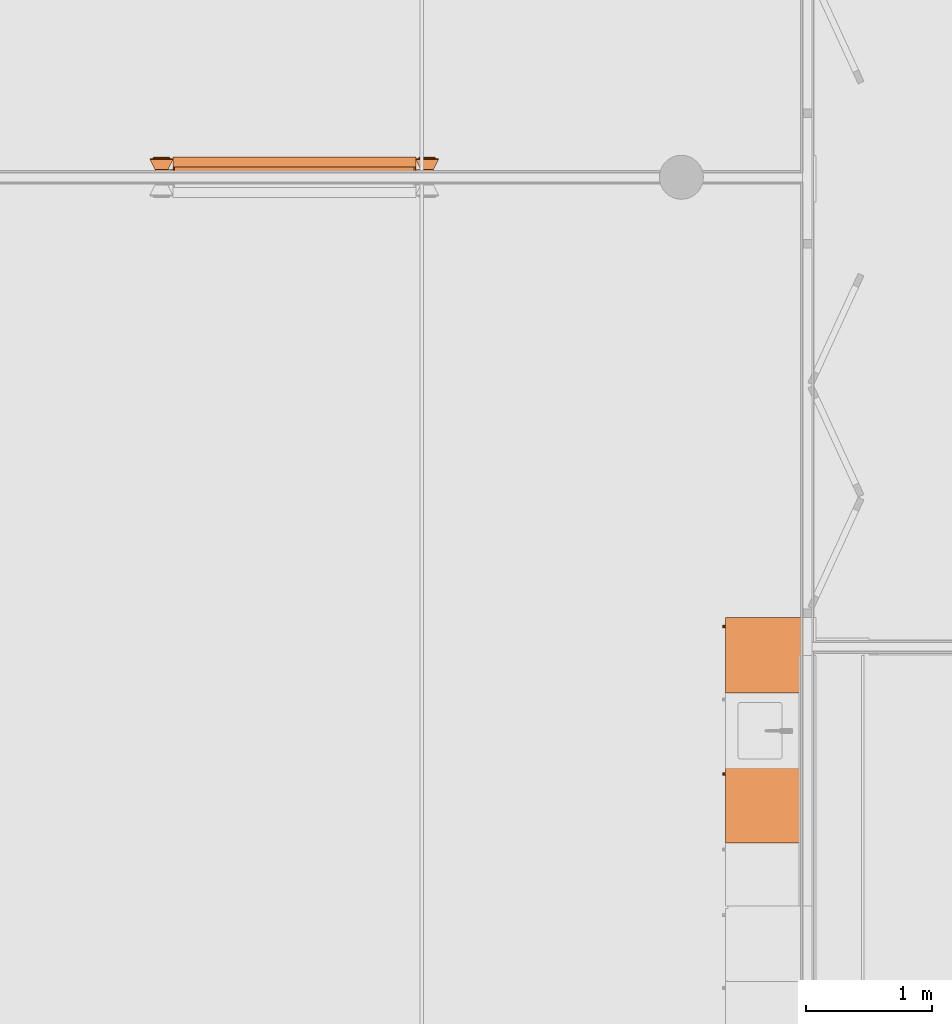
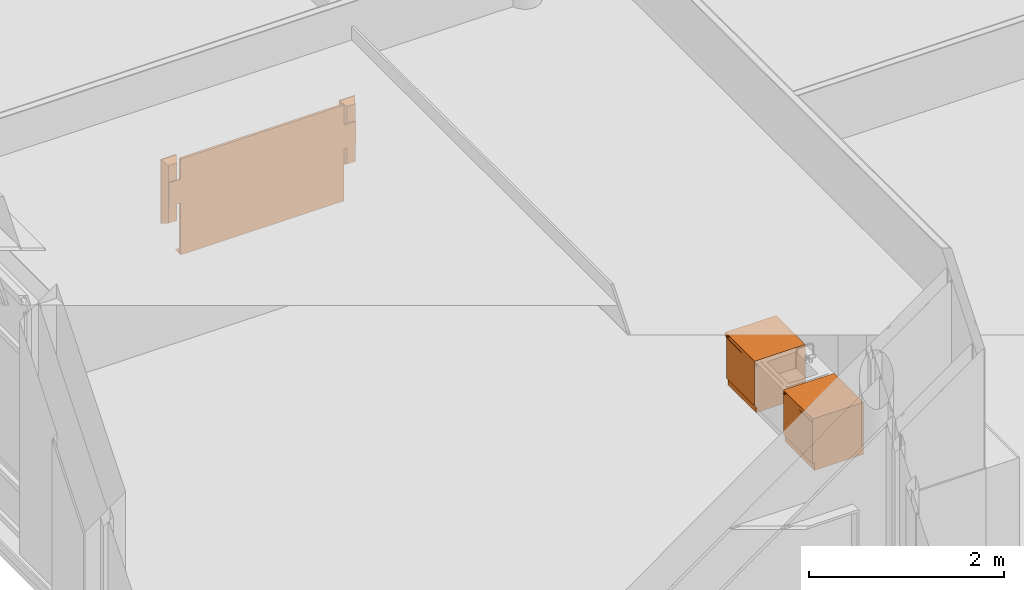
# One storey, part 93 of 167: 3 proxies.
"""IFC2X3 building model written with IfcOpenShell, lengths in millimetres."""

from ifc_helpers import new_model, entity, si_unit, converted_unit, derived_unit, money_unit, direction, frame, origin_with_axes, place, context, subcontext, project, spatial, faceted_brep, source, transform, mapped, type_object, type_shapes, element, save


model = new_model("IFC2X3")

# Units and contexts
model_context = context("Model", 3, precision=0.01, world=origin_with_axes(), true_north=direction((0.0, 1.0)))
plan_context = context("Plan", 3, precision=0.01, world=origin_with_axes(), true_north=direction((0.0, 1.0)))
body_context = subcontext(model_context, "Body", "Model", "MODEL_VIEW")
ifc_project = project(units=[si_unit("LENGTHUNIT", "METRE", prefix="MILLI"), si_unit("AREAUNIT", "SQUARE_METRE"), si_unit("VOLUMEUNIT", "CUBIC_METRE"), converted_unit("PLANEANGLEUNIT", "DEGREE", entity("IfcPlaneAngleMeasure", 0.0174532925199), si_unit("PLANEANGLEUNIT", "RADIAN"), dimensions=[0, 0, 0, 0, 0, 0, 0]), si_unit("SOLIDANGLEUNIT", "STERADIAN"), money_unit("EUR"), converted_unit("TIMEUNIT", "Year", entity("IfcTimeMeasure", 31556926.0), si_unit("TIMEUNIT", "SECOND"), dimensions=[0, 0, 1, 0, 0, 0, 0]), si_unit("MASSUNIT", "GRAM", prefix="KILO"), si_unit("THERMODYNAMICTEMPERATUREUNIT", "DEGREE_CELSIUS"), si_unit("LUMINOUSINTENSITYUNIT", "LUMEN"), si_unit("ENERGYUNIT", "JOULE", prefix="MEGA"), derived_unit("THERMALCONDUCTANCEUNIT", [(si_unit("POWERUNIT", "WATT"), 1), (si_unit("LENGTHUNIT", "METRE"), -1), (si_unit("THERMODYNAMICTEMPERATUREUNIT", "KELVIN"), -1)]), derived_unit("SPECIFICHEATCAPACITYUNIT", [(si_unit("ENERGYUNIT", "JOULE"), 1), (si_unit("MASSUNIT", "GRAM", prefix="KILO"), -1), (si_unit("THERMODYNAMICTEMPERATUREUNIT", "KELVIN"), -1)]), derived_unit("MASSDENSITYUNIT", [(si_unit("MASSUNIT", "GRAM", prefix="KILO"), 1), (si_unit("VOLUMEUNIT", "CUBIC_METRE"), -1)])], contexts=[model_context, plan_context])

# Site, building, storey
site_placement = place(None, origin_with_axes())
site = spatial("IfcSite", under=ifc_project, at=site_placement, Name="Site", CompositionType="ELEMENT")
building_placement = place(site_placement, origin_with_axes())
building = spatial("IfcBuilding", under=site, at=building_placement, Name="Naam gebouw", CompositionType="ELEMENT")
storey_placement = place(building_placement, origin_with_axes())
storey = spatial("IfcBuildingStorey", under=building, at=storey_placement, Name="Begane grond", CompositionType="ELEMENT", Elevation=0.0)

# Proxies
building_element_proxy_type_1 = type_object("IfcBuildingElementProxyType", Name="Kast basis 1D 24", PredefinedType="NOTDEFINED")
shared_shape_1 = source(origin_with_axes(), body_context, "Body", "Brep", [
    faceted_brep([(0.0, 20.0, 0.0), (0.0, 20.0, 90.0), (-580.0, 20.0, 90.0), (-580.0, 20.0, 0.0), (0.0, 600.0, 0.0), (0.0, 600.0, 90.0), (-580.0, 600.0, 90.0), (-580.0, 600.0, 0.0)], [[[0, 1, 2, 3]], [[4, 5, 1, 0]], [[1, 5, 6, 2]], [[3, 2, 6, 7]], [[0, 3, 7, 4]], [[7, 6, 5, 4]]]),
    faceted_brep([(0.0, 20.0, 580.0), (0.0, 20.0, 600.0), (-20.0, 20.0, 600.0), (-20.0, 20.0, 580.0), (0.0, 600.0, 580.0), (0.0, 600.0, 600.0), (-20.0, 600.0, 600.0), (-560.0, 600.0, 600.0), (-580.0, 600.0, 600.0), (-580.0, 20.0, 600.0), (-560.0, 20.0, 600.0), (-560.0, 20.0, 580.0), (-580.0, 20.0, 580.0), (-580.0, 600.0, 580.0), (-560.0, 600.0, 580.0), (-20.0, 600.0, 580.0)], [[[0, 1, 2, 3]], [[4, 5, 1, 0]], [[1, 5, 6, 7, 8, 9, 10, 2]], [[3, 2, 10, 11]], [[0, 3, 11, 12, 13, 14, 15, 4]], [[15, 6, 5, 4]], [[14, 7, 6, 15]], [[13, 8, 7, 14]], [[12, 9, 8, 13]], [[11, 10, 9, 12]]]),
    faceted_brep([(0.0, 20.0, 90.0), (0.0, 20.0, 110.0), (-20.0, 20.0, 110.0), (-20.0, 20.0, 90.0), (0.0, 600.0, 90.0), (0.0, 600.0, 110.0), (-20.0, 600.0, 110.0), (-560.0, 600.0, 110.0), (-580.0, 600.0, 110.0), (-580.0, 20.0, 110.0), (-560.0, 20.0, 110.0), (-560.0, 20.0, 90.0), (-580.0, 20.0, 90.0), (-580.0, 600.0, 90.0), (-560.0, 600.0, 90.0), (-20.0, 600.0, 90.0)], [[[0, 1, 2, 3]], [[4, 5, 1, 0]], [[1, 5, 6, 7, 8, 9, 10, 2]], [[3, 2, 10, 11]], [[0, 3, 11, 12, 13, 14, 15, 4]], [[15, 6, 5, 4]], [[14, 7, 6, 15]], [[13, 8, 7, 14]], [[12, 9, 8, 13]], [[11, 10, 9, 12]]]),
    faceted_brep([(0.0, 20.0, 110.0), (0.0, 20.0, 580.0), (-20.0, 20.0, 580.0), (-20.0, 20.0, 110.0), (0.0, 600.0, 110.0), (0.0, 600.0, 580.0), (-580.0, 600.0, 580.0), (-580.0, 20.0, 580.0), (-560.0, 20.0, 580.0), (-560.0, 580.0, 580.0), (-20.0, 580.0, 580.0), (-20.0, 580.0, 110.0), (-560.0, 580.0, 110.0), (-560.0, 20.0, 110.0), (-580.0, 20.0, 110.0), (-580.0, 600.0, 110.0)], [[[0, 1, 2, 3]], [[4, 5, 1, 0]], [[1, 5, 6, 7, 8, 9, 10, 2]], [[3, 2, 10, 11]], [[0, 3, 11, 12, 13, 14, 15, 4]], [[15, 6, 5, 4]], [[14, 7, 6, 15]], [[13, 8, 7, 14]], [[12, 9, 8, 13]], [[11, 10, 9, 12]]]),
    faceted_brep([(-560.0, 20.0, 325.0), (-560.0, 20.0, 345.0), (-560.0, 580.0, 345.0), (-560.0, 580.0, 325.0), (-20.0, 20.0, 325.0), (-20.0, 20.0, 345.0), (-20.0, 580.0, 345.0), (-20.0, 580.0, 325.0)], [[[0, 1, 2, 3]], [[4, 5, 1, 0]], [[1, 5, 6, 2]], [[3, 2, 6, 7]], [[0, 3, 7, 4]], [[7, 6, 5, 4]]]),
    faceted_brep([(0.0, 0.0, 600.0), (0.0, 0.0, 650.0), (-600.0, 0.0, 650.0), (-600.0, 0.0, 600.0), (0.0, 600.0, 600.0), (0.0, 600.0, 650.0), (-600.0, 600.0, 650.0), (-600.0, 600.0, 600.0)], [[[0, 1, 2, 3]], [[4, 5, 1, 0]], [[1, 5, 6, 2]], [[3, 2, 6, 7]], [[0, 3, 7, 4]], [[7, 6, 5, 4]]]),
    faceted_brep([(-1.5, 20.0, 91.5), (-1.5, 0.0, 91.5), (-578.5, 0.0, 91.5), (-578.5, 20.0, 91.5), (-1.5, 20.0, 598.5), (-1.5, 0.0, 598.5), (-578.5, 0.0, 598.5), (-578.5, 20.0, 598.5)], [[[0, 1, 2, 3]], [[4, 5, 1, 0]], [[1, 5, 6, 2]], [[3, 2, 6, 7]], [[0, 3, 7, 4]], [[7, 6, 5, 4]]]),
    faceted_brep([(-539.58655439, 0.0, 636.907798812), (-540.5, 0.0, 641.5), (-539.58655439, 0.0, 646.092201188), (-536.985281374, 0.0, 649.985281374), (-533.092201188, 0.0, 652.58655439), (-528.5, 0.0, 653.5), (-523.907798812, 0.0, 652.58655439), (-520.014718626, 0.0, 649.985281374), (-517.41344561, 0.0, 646.092201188), (-516.5, 0.0, 641.5), (-517.41344561, 0.0, 636.907798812), (-520.014718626, 0.0, 633.014718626), (-523.907798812, 0.0, 630.41344561), (-528.5, 0.0, 629.5), (-533.092201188, 0.0, 630.41344561), (-536.985281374, 0.0, 633.014718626), (-539.58655439, -25.0, 636.907798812), (-540.5, -25.0, 641.5), (-539.58655439, -25.0, 646.092201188), (-536.985281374, -25.0, 649.985281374), (-533.092201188, -25.0, 652.58655439), (-528.5, -25.0, 653.5), (-523.907798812, -25.0, 652.58655439), (-520.014718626, -25.0, 649.985281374), (-517.41344561, -25.0, 646.092201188), (-516.5, -25.0, 641.5), (-517.41344561, -25.0, 636.907798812), (-520.014718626, -25.0, 633.014718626), (-523.907798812, -25.0, 630.41344561), (-528.5, -25.0, 629.5), (-533.092201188, -25.0, 630.41344561), (-536.985281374, -25.0, 633.014718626)], [[[0, 1, 2, 3, 4, 5, 6, 7, 8, 9, 10, 11, 12, 13, 14, 15]], [[0, 16, 17, 1]], [[1, 17, 18, 2]], [[2, 18, 19, 3]], [[3, 19, 20, 4]], [[4, 20, 21, 5]], [[5, 21, 22, 6]], [[6, 22, 23, 7]], [[7, 23, 24, 8]], [[8, 24, 25, 9]], [[9, 25, 26, 10]], [[10, 26, 27, 11]], [[11, 27, 28, 12]], [[12, 28, 29, 13]], [[13, 29, 30, 14]], [[14, 30, 31, 15]], [[15, 31, 16, 0]], [[16, 31, 30, 29, 28, 27, 26, 25, 24, 23, 22, 21, 20, 19, 18, 17]]]),
    faceted_brep([(-580.0, 21.5, 91.5), (-600.0, 21.5, 91.5), (-600.0, 598.5, 91.5), (-580.0, 598.5, 91.5), (-580.0, 21.5, 598.5), (-600.0, 21.5, 598.5), (-600.0, 598.5, 598.5), (-580.0, 598.5, 598.5)], [[[0, 1, 2, 3]], [[4, 5, 1, 0]], [[1, 5, 6, 2]], [[3, 2, 6, 7]], [[0, 3, 7, 4]], [[7, 6, 5, 4]]]),
])
proxy_1_placement = place(storey_placement, frame((7550.0, 24704.0, 0.0), z_axis=(0.0, 0.0, 1.0), x_axis=(0.0, -1.0, 0.0)))
element("IfcBuildingElementProxy", 1, at=proxy_1_placement, inside=storey, type_object=building_element_proxy_type_1, Name="__Object-x", context=body_context, shape_type="MappedRepresentation", body=[
    mapped(shared_shape_1, transform((0.0, 0.0, 0.0))),
])
shared_shape_2 = source(origin_with_axes(), body_context, "Body", "Brep", [
    faceted_brep([(0.0, 20.0, 0.0), (0.0, 20.0, 90.0), (-600.0, 20.0, 90.0), (-600.0, 20.0, 0.0), (0.0, 600.0, 0.0), (0.0, 600.0, 90.0), (-600.0, 600.0, 90.0), (-600.0, 600.0, 0.0)], [[[0, 1, 2, 3]], [[4, 5, 1, 0]], [[1, 5, 6, 2]], [[3, 2, 6, 7]], [[0, 3, 7, 4]], [[7, 6, 5, 4]]]),
    faceted_brep([(0.0, 20.0, 580.0), (0.0, 20.0, 600.0), (-20.0, 20.0, 600.0), (-20.0, 20.0, 580.0), (0.0, 600.0, 580.0), (0.0, 600.0, 600.0), (-20.0, 600.0, 600.0), (-580.0, 600.0, 600.0), (-600.0, 600.0, 600.0), (-600.0, 20.0, 600.0), (-580.0, 20.0, 600.0), (-580.0, 20.0, 580.0), (-600.0, 20.0, 580.0), (-600.0, 600.0, 580.0), (-580.0, 600.0, 580.0), (-20.0, 600.0, 580.0)], [[[0, 1, 2, 3]], [[4, 5, 1, 0]], [[1, 5, 6, 7, 8, 9, 10, 2]], [[3, 2, 10, 11]], [[0, 3, 11, 12, 13, 14, 15, 4]], [[15, 6, 5, 4]], [[14, 7, 6, 15]], [[13, 8, 7, 14]], [[12, 9, 8, 13]], [[11, 10, 9, 12]]]),
    faceted_brep([(0.0, 20.0, 90.0), (0.0, 20.0, 110.0), (-20.0, 20.0, 110.0), (-20.0, 20.0, 90.0), (0.0, 600.0, 90.0), (0.0, 600.0, 110.0), (-20.0, 600.0, 110.0), (-580.0, 600.0, 110.0), (-600.0, 600.0, 110.0), (-600.0, 20.0, 110.0), (-580.0, 20.0, 110.0), (-580.0, 20.0, 90.0), (-600.0, 20.0, 90.0), (-600.0, 600.0, 90.0), (-580.0, 600.0, 90.0), (-20.0, 600.0, 90.0)], [[[0, 1, 2, 3]], [[4, 5, 1, 0]], [[1, 5, 6, 7, 8, 9, 10, 2]], [[3, 2, 10, 11]], [[0, 3, 11, 12, 13, 14, 15, 4]], [[15, 6, 5, 4]], [[14, 7, 6, 15]], [[13, 8, 7, 14]], [[12, 9, 8, 13]], [[11, 10, 9, 12]]]),
    faceted_brep([(0.0, 20.0, 110.0), (0.0, 20.0, 580.0), (-20.0, 20.0, 580.0), (-20.0, 20.0, 110.0), (0.0, 600.0, 110.0), (0.0, 600.0, 580.0), (-600.0, 600.0, 580.0), (-600.0, 20.0, 580.0), (-580.0, 20.0, 580.0), (-580.0, 580.0, 580.0), (-20.0, 580.0, 580.0), (-20.0, 580.0, 110.0), (-580.0, 580.0, 110.0), (-580.0, 20.0, 110.0), (-600.0, 20.0, 110.0), (-600.0, 600.0, 110.0)], [[[0, 1, 2, 3]], [[4, 5, 1, 0]], [[1, 5, 6, 7, 8, 9, 10, 2]], [[3, 2, 10, 11]], [[0, 3, 11, 12, 13, 14, 15, 4]], [[15, 6, 5, 4]], [[14, 7, 6, 15]], [[13, 8, 7, 14]], [[12, 9, 8, 13]], [[11, 10, 9, 12]]]),
    faceted_brep([(-580.0, 20.0, 325.0), (-580.0, 20.0, 345.0), (-580.0, 580.0, 345.0), (-580.0, 580.0, 325.0), (-20.0, 20.0, 325.0), (-20.0, 20.0, 345.0), (-20.0, 580.0, 345.0), (-20.0, 580.0, 325.0)], [[[0, 1, 2, 3]], [[4, 5, 1, 0]], [[1, 5, 6, 2]], [[3, 2, 6, 7]], [[0, 3, 7, 4]], [[7, 6, 5, 4]]]),
    faceted_brep([(0.0, 0.0, 600.0), (0.0, 0.0, 650.0), (-600.0, 0.0, 650.0), (-600.0, 0.0, 600.0), (0.0, 600.0, 600.0), (0.0, 600.0, 650.0), (-600.0, 600.0, 650.0), (-600.0, 600.0, 600.0)], [[[0, 1, 2, 3]], [[4, 5, 1, 0]], [[1, 5, 6, 2]], [[3, 2, 6, 7]], [[0, 3, 7, 4]], [[7, 6, 5, 4]]]),
    faceted_brep([(-1.5, 20.0, 91.5), (-1.5, 0.0, 91.5), (-598.5, 0.0, 91.5), (-598.5, 20.0, 91.5), (-1.5, 20.0, 598.5), (-1.5, 0.0, 598.5), (-598.5, 0.0, 598.5), (-598.5, 20.0, 598.5)], [[[0, 1, 2, 3]], [[4, 5, 1, 0]], [[1, 5, 6, 2]], [[3, 2, 6, 7]], [[0, 3, 7, 4]], [[7, 6, 5, 4]]]),
    faceted_brep([(-559.58655439, 0.0, 636.907798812), (-560.5, 0.0, 641.5), (-559.58655439, 0.0, 646.092201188), (-556.985281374, 0.0, 649.985281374), (-553.092201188, 0.0, 652.58655439), (-548.5, 0.0, 653.5), (-543.907798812, 0.0, 652.58655439), (-540.014718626, 0.0, 649.985281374), (-537.41344561, 0.0, 646.092201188), (-536.5, 0.0, 641.5), (-537.41344561, 0.0, 636.907798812), (-540.014718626, 0.0, 633.014718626), (-543.907798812, 0.0, 630.41344561), (-548.5, 0.0, 629.5), (-553.092201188, 0.0, 630.41344561), (-556.985281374, 0.0, 633.014718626), (-559.58655439, -25.0, 636.907798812), (-560.5, -25.0, 641.5), (-559.58655439, -25.0, 646.092201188), (-556.985281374, -25.0, 649.985281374), (-553.092201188, -25.0, 652.58655439), (-548.5, -25.0, 653.5), (-543.907798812, -25.0, 652.58655439), (-540.014718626, -25.0, 649.985281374), (-537.41344561, -25.0, 646.092201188), (-536.5, -25.0, 641.5), (-537.41344561, -25.0, 636.907798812), (-540.014718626, -25.0, 633.014718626), (-543.907798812, -25.0, 630.41344561), (-548.5, -25.0, 629.5), (-553.092201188, -25.0, 630.41344561), (-556.985281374, -25.0, 633.014718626)], [[[0, 1, 2, 3, 4, 5, 6, 7, 8, 9, 10, 11, 12, 13, 14, 15]], [[0, 16, 17, 1]], [[1, 17, 18, 2]], [[2, 18, 19, 3]], [[3, 19, 20, 4]], [[4, 20, 21, 5]], [[5, 21, 22, 6]], [[6, 22, 23, 7]], [[7, 23, 24, 8]], [[8, 24, 25, 9]], [[9, 25, 26, 10]], [[10, 26, 27, 11]], [[11, 27, 28, 12]], [[12, 28, 29, 13]], [[13, 29, 30, 14]], [[14, 30, 31, 15]], [[15, 31, 16, 0]], [[16, 31, 30, 29, 28, 27, 26, 25, 24, 23, 22, 21, 20, 19, 18, 17]]]),
])
type_shapes(building_element_proxy_type_1, [shared_shape_1, shared_shape_2])
proxy_2_placement = place(storey_placement, frame((7550.0, 23514.0, 0.0), z_axis=(0.0, 0.0, 1.0), x_axis=(0.0, -1.0, 0.0)))
element("IfcBuildingElementProxy", 2, at=proxy_2_placement, inside=storey, type_object=building_element_proxy_type_1, Name="__Object-x", context=body_context, shape_type="MappedRepresentation", body=[
    mapped(shared_shape_2, transform((0.0, 0.0, 0.0))),
])
building_element_proxy_type_2 = type_object("IfcBuildingElementProxyType", Name="Digitaal bord 24", PredefinedType="NOTDEFINED")
shared_shape_3 = source(origin_with_axes(), body_context, "Body", "Brep", [
    faceted_brep([(0.0, 0.0, 1000.0), (0.0, -30.0, 1000.0), (-1930.0, -30.0, 1000.0), (-1930.0, 0.0, 1000.0), (0.0, 0.0, 2185.0), (0.0, -30.0, 2185.0), (-4.3933982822, -30.0, 2195.60660172), (-15.0, -30.0, 2200.0), (-1915.0, -30.0, 2200.0), (-1925.60660172, -30.0, 2195.60660172), (-1930.0, -30.0, 2185.0), (-20.0, -30.0, 1025.0), (-1910.0, -30.0, 1025.0), (-1910.0, -30.0, 2180.0), (-20.0, -30.0, 2180.0), (-1930.0, 0.0, 2185.0), (-1925.60660172, 0.0, 2195.60660172), (-1915.0, 0.0, 2200.0), (-15.0, 0.0, 2200.0), (-4.3933982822, 0.0, 2195.60660172), (-20.0, 0.0, 1025.0), (-20.0, 0.0, 2180.0), (-1910.0, 0.0, 2180.0), (-1910.0, 0.0, 1025.0)], [[[0, 1, 2, 3]], [[4, 5, 1, 0]], [[1, 5, 6, 7, 8, 9, 10, 2], [11, 12, 13, 14]], [[3, 2, 10, 15]], [[0, 3, 15, 16, 17, 18, 19, 4], [20, 21, 22, 23]], [[19, 6, 5, 4]], [[18, 7, 6, 19]], [[17, 8, 7, 18]], [[16, 9, 8, 17]], [[15, 10, 9, 16]], [[23, 12, 11, 20]], [[22, 13, 12, 23]], [[21, 14, 13, 22]], [[20, 11, 14, 21]]]),
    faceted_brep([(-20.0, 0.0, 1025.0), (-20.0, -29.0, 1025.0), (-1910.0, -29.0, 1025.0), (-1910.0, 0.0, 1025.0), (-20.0, 0.0, 2180.0), (-20.0, -29.0, 2180.0), (-1910.0, -29.0, 2180.0), (-1910.0, 0.0, 2180.0)], [[[0, 1, 2, 3]], [[4, 5, 1, 0]], [[1, 5, 6, 2]], [[3, 2, 6, 7]], [[0, 3, 7, 4]], [[7, 6, 5, 4]]]),
    faceted_brep([(-1930.0, -110.0, 1000.0), (-1930.0, -30.0, 1000.0), (0.0, -30.0, 1000.0), (0.0, -110.0, 1000.0), (-1930.0, -110.0, 1005.0), (-1930.0, -30.0, 1005.0), (0.0, -30.0, 1005.0), (0.0, -110.0, 1005.0)], [[[0, 1, 2, 3]], [[0, 4, 5, 1]], [[1, 5, 6, 2]], [[2, 6, 7, 3]], [[3, 7, 4, 0]], [[7, 6, 5, 4]]]),
    faceted_brep([(0.0, -10.0, 1650.0), (0.0, 0.0, 1650.0), (140.0, 0.0, 1650.0), (140.0, -10.0, 1650.0), (0.0, -10.0, 1950.0), (0.0, 0.0, 1950.0), (140.0, 0.0, 1950.0), (140.0, -10.0, 1950.0)], [[[0, 1, 2, 3]], [[0, 4, 5, 1]], [[1, 5, 6, 2]], [[2, 6, 7, 3]], [[3, 7, 4, 0]], [[7, 6, 5, 4]]]),
    faceted_brep([(0.0, -100.0, 2200.0), (0.0, -100.0, 1400.0), (180.0, -100.0, 1400.0), (180.0, -100.0, 2200.0), (-2.43782993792e-07, -90.0, 2200.00000039), (-2.43782993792e-07, -90.0, 1399.99999964), (180.00000039, -90.0, 1399.99999964), (180.00000039, -90.0, 2200.00000039), (39.9999997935, -9.99999992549, 2160.00000035), (39.9999997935, -9.99999992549, 1439.99999968), (140.000000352, -9.99999992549, 1439.99999968), (140.000000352, -9.99999992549, 2160.00000035)], [[[0, 1, 2, 3]], [[0, 4, 5, 1]], [[1, 5, 6, 2]], [[2, 6, 7, 3]], [[3, 7, 4, 0]], [[4, 8, 9, 5]], [[5, 9, 10, 6]], [[6, 10, 11, 7]], [[7, 11, 8, 4]], [[10, 9, 8, 11]]]),
    faceted_brep([(157.071067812, -100.0, 1522.92893219), (150.0, -100.0, 1520.0), (30.0, -100.0, 1520.0), (22.9289321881, -100.0, 1522.92893219), (20.0, -100.0, 1530.0), (20.0, -100.0, 2170.0), (22.9289321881, -100.0, 2177.07106781), (30.0, -100.0, 2180.0), (150.0, -100.0, 2180.0), (157.071067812, -100.0, 2177.07106781), (160.0, -100.0, 2170.0), (160.0, -100.0, 1530.0), (156.488467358, -103.826834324, 1523.51153264), (149.848586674, -103.826834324, 1520.76120427), (30.1514125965, -103.826834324, 1520.76120427), (23.5115328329, -103.826834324, 1523.51153262), (20.761204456, -103.826834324, 1530.15141333), (20.761204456, -103.826834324, 2169.84858696), (23.5115328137, -103.826834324, 2176.48846674), (30.1514125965, -103.826834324, 2179.2387951), (149.848586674, -103.826834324, 2179.2387951), (156.488467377, -103.826834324, 2176.48846672), (159.238795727, -103.826834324, 2169.84858696), (159.238795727, -103.826834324, 1530.15141333), (152.346331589, -109.238795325, 1527.65366841), (148.772080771, -109.238795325, 1526.17316539), (31.2279186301, -109.238795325, 1526.17316539), (27.6536686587, -109.238795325, 1527.65366826), (26.1731655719, -109.238795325, 1531.22791923), (26.1731655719, -109.238795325, 2168.77208092), (27.6536685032, -109.238795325, 2172.34633105), (31.2279186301, -109.238795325, 2173.82683398), (148.772080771, -109.238795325, 2173.82683398), (152.346331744, -109.238795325, 2172.34633089), (153.826834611, -109.238795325, 2168.77208092), (153.826834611, -109.238795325, 1531.22791923), (149.41740042, -109.999999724, 1530.58259958), (148.010876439, -109.999999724, 1529.99999833), (31.9891230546, -109.999999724, 1529.99999833), (30.5825998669, -109.999999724, 1530.58259933), (29.9999985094, -109.999999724, 1531.98912356), (29.9999985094, -109.999999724, 2168.0108765), (30.5825996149, -109.999999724, 2169.41739994), (31.9891230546, -109.999999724, 2170.00000104), (148.010876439, -109.999999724, 2170.00000104), (149.417400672, -109.999999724, 2169.41739969), (150.000001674, -109.999999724, 2168.0108765), (150.000001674, -109.999999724, 1531.98912356)], [[[0, 1, 2, 3, 4, 5, 6, 7, 8, 9, 10, 11]], [[0, 12, 13, 1]], [[1, 13, 14, 2]], [[2, 14, 15, 3]], [[3, 15, 16, 4]], [[4, 16, 17, 5]], [[5, 17, 18, 6]], [[6, 18, 19, 7]], [[7, 19, 20, 8]], [[8, 20, 21, 9]], [[9, 21, 22, 10]], [[10, 22, 23, 11]], [[11, 23, 12, 0]], [[12, 24, 25, 13]], [[13, 25, 26, 14]], [[14, 26, 27, 15]], [[15, 27, 28, 16]], [[16, 28, 29, 17]], [[17, 29, 30, 18]], [[18, 30, 31, 19]], [[19, 31, 32, 20]], [[20, 32, 33, 21]], [[21, 33, 34, 22]], [[22, 34, 35, 23]], [[23, 35, 24, 12]], [[24, 36, 37, 25]], [[25, 37, 38, 26]], [[26, 38, 39, 27]], [[27, 39, 40, 28]], [[28, 40, 41, 29]], [[29, 41, 42, 30]], [[30, 42, 43, 31]], [[31, 43, 44, 32]], [[32, 44, 45, 33]], [[33, 45, 46, 34]], [[34, 46, 47, 35]], [[35, 47, 36, 24]], [[45, 44, 43, 42, 41, 40, 39, 38, 37, 36, 47, 46]]]),
    faceted_brep([(40.0, -100.0, 1400.0), (40.0, -100.0, 1450.0), (54.6446609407, -100.0, 1485.35533906), (90.0, -100.0, 1500.0), (125.355339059, -100.0, 1485.35533906), (140.0, -100.0, 1450.0), (140.0, -100.0, 1400.0), (40.380602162, -101.913417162, 1400.38060194), (40.380602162, -101.913417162, 1449.92429384), (54.9359612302, -101.913417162, 1485.06403877), (89.9999996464, -101.913417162, 1499.58803917), (125.064038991, -101.913417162, 1485.06403877), (139.619398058, -101.913417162, 1449.92429384), (139.619398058, -101.913417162, 1400.38060194), (43.0865822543, -104.619397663, 1403.08658203), (43.0865822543, -104.619397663, 1449.38604093), (57.0070287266, -104.619397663, 1482.99297127), (89.99999966, -104.619397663, 1496.65910743), (122.9929715, -104.619397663, 1482.99297126), (136.913417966, -104.619397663, 1449.38604093), (136.913417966, -104.619397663, 1403.08658203), (45.0000010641, -105.000000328, 1405.00000084), (45.0000010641, -105.000000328, 1449.00543826), (58.4714960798, -105.000000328, 1481.52850392), (89.9999996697, -105.000000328, 1494.58803784), (121.528504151, -105.000000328, 1481.52850389), (134.999999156, -105.000000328, 1449.00543826), (134.999999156, -105.000000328, 1405.00000084)], [[[0, 1, 2, 3, 4, 5, 6]], [[0, 7, 8, 1]], [[1, 8, 9, 2]], [[2, 9, 10, 3]], [[3, 10, 11, 4]], [[4, 11, 12, 5]], [[5, 12, 13, 6]], [[6, 13, 7, 0]], [[7, 14, 15, 8]], [[8, 15, 16, 9]], [[9, 16, 17, 10]], [[10, 17, 18, 11]], [[11, 18, 19, 12]], [[12, 19, 20, 13]], [[13, 20, 14, 7]], [[14, 21, 22, 15]], [[15, 22, 23, 16]], [[16, 23, 24, 17]], [[17, 24, 25, 18]], [[18, 25, 26, 19]], [[19, 26, 27, 20]], [[20, 27, 21, 14]], [[25, 24, 23, 22, 21, 27, 26]]]),
    faceted_brep([(-1930.0, -10.0, 1650.0), (-2070.0, -10.0, 1650.0), (-2070.0, 0.0, 1650.0), (-1930.0, 0.0, 1650.0), (-1930.0, -10.0, 1950.0), (-2070.0, -10.0, 1950.0), (-2070.0, 0.0, 1950.0), (-1930.0, 0.0, 1950.0)], [[[0, 1, 2, 3]], [[1, 0, 4, 5]], [[2, 1, 5, 6]], [[3, 2, 6, 7]], [[0, 3, 7, 4]], [[5, 4, 7, 6]]]),
    faceted_brep([(-1930.0, -100.0, 2200.0), (-2110.0, -100.0, 2200.0), (-2110.0, -100.0, 1400.0), (-1930.0, -100.0, 1400.0), (-1929.99999976, -90.0, 2200.00000039), (-2110.00000039, -90.0, 2200.00000039), (-2110.00000039, -90.0, 1399.99999964), (-1929.99999976, -90.0, 1399.99999964), (-1969.99999979, -9.99999992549, 2160.00000035), (-2070.00000035, -9.99999992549, 2160.00000035), (-2070.00000035, -9.99999992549, 1439.99999968), (-1969.99999979, -9.99999992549, 1439.99999968)], [[[0, 1, 2, 3]], [[1, 0, 4, 5]], [[2, 1, 5, 6]], [[3, 2, 6, 7]], [[0, 3, 7, 4]], [[5, 4, 8, 9]], [[6, 5, 9, 10]], [[7, 6, 10, 11]], [[4, 7, 11, 8]], [[10, 9, 8, 11]]]),
    faceted_brep([(-2087.07106781, -100.0, 1522.92893219), (-2090.0, -100.0, 1530.0), (-2090.0, -100.0, 2170.0), (-2087.07106781, -100.0, 2177.07106781), (-2080.0, -100.0, 2180.0), (-1960.0, -100.0, 2180.0), (-1952.92893219, -100.0, 2177.07106781), (-1950.0, -100.0, 2170.0), (-1950.0, -100.0, 1530.0), (-1952.92893219, -100.0, 1522.92893219), (-1960.0, -100.0, 1520.0), (-2080.0, -100.0, 1520.0), (-2086.48846736, -103.826834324, 1523.51153264), (-2089.23879573, -103.826834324, 1530.15141333), (-2089.23879573, -103.826834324, 2169.84858696), (-2086.48846738, -103.826834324, 2176.48846672), (-2079.84858667, -103.826834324, 2179.2387951), (-1960.1514126, -103.826834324, 2179.2387951), (-1953.51153281, -103.826834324, 2176.48846674), (-1950.76120446, -103.826834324, 2169.84858696), (-1950.76120446, -103.826834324, 1530.15141333), (-1953.51153283, -103.826834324, 1523.51153262), (-1960.1514126, -103.826834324, 1520.76120427), (-2079.84858667, -103.826834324, 1520.76120427), (-2082.34633159, -109.238795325, 1527.65366841), (-2083.82683461, -109.238795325, 1531.22791923), (-2083.82683461, -109.238795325, 2168.77208092), (-2082.34633174, -109.238795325, 2172.34633089), (-2078.77208077, -109.238795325, 2173.82683398), (-1961.22791863, -109.238795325, 2173.82683398), (-1957.6536685, -109.238795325, 2172.34633105), (-1956.17316557, -109.238795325, 2168.77208092), (-1956.17316557, -109.238795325, 1531.22791923), (-1957.65366866, -109.238795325, 1527.65366826), (-1961.22791863, -109.238795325, 1526.17316539), (-2078.77208077, -109.238795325, 1526.17316539), (-2079.41740042, -109.999999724, 1530.58259958), (-2080.00000167, -109.999999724, 1531.98912356), (-2080.00000167, -109.999999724, 2168.0108765), (-2079.41740067, -109.999999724, 2169.41739969), (-2078.01087644, -109.999999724, 2170.00000104), (-1961.98912305, -109.999999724, 2170.00000104), (-1960.58259961, -109.999999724, 2169.41739994), (-1959.99999851, -109.999999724, 2168.0108765), (-1959.99999851, -109.999999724, 1531.98912356), (-1960.58259987, -109.999999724, 1530.58259933), (-1961.98912305, -109.999999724, 1529.99999833), (-2078.01087644, -109.999999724, 1529.99999833)], [[[0, 1, 2, 3, 4, 5, 6, 7, 8, 9, 10, 11]], [[1, 0, 12, 13]], [[2, 1, 13, 14]], [[3, 2, 14, 15]], [[4, 3, 15, 16]], [[5, 4, 16, 17]], [[6, 5, 17, 18]], [[7, 6, 18, 19]], [[8, 7, 19, 20]], [[9, 8, 20, 21]], [[10, 9, 21, 22]], [[11, 10, 22, 23]], [[0, 11, 23, 12]], [[13, 12, 24, 25]], [[14, 13, 25, 26]], [[15, 14, 26, 27]], [[16, 15, 27, 28]], [[17, 16, 28, 29]], [[18, 17, 29, 30]], [[19, 18, 30, 31]], [[20, 19, 31, 32]], [[21, 20, 32, 33]], [[22, 21, 33, 34]], [[23, 22, 34, 35]], [[12, 23, 35, 24]], [[25, 24, 36, 37]], [[26, 25, 37, 38]], [[27, 26, 38, 39]], [[28, 27, 39, 40]], [[29, 28, 40, 41]], [[30, 29, 41, 42]], [[31, 30, 42, 43]], [[32, 31, 43, 44]], [[33, 32, 44, 45]], [[34, 33, 45, 46]], [[35, 34, 46, 47]], [[24, 35, 47, 36]], [[39, 38, 37, 36, 47, 46, 45, 44, 43, 42, 41, 40]]]),
    faceted_brep([(-1970.0, -100.0, 1400.0), (-2070.0, -100.0, 1400.0), (-2070.0, -100.0, 1450.0), (-2055.35533906, -100.0, 1485.35533906), (-2020.0, -100.0, 1500.0), (-1984.64466094, -100.0, 1485.35533906), (-1970.0, -100.0, 1450.0), (-1970.38060216, -101.913417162, 1400.38060194), (-2069.61939806, -101.913417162, 1400.38060194), (-2069.61939806, -101.913417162, 1449.92429384), (-2055.06403899, -101.913417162, 1485.06403877), (-2019.99999965, -101.913417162, 1499.58803917), (-1984.93596123, -101.913417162, 1485.06403877), (-1970.38060216, -101.913417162, 1449.92429384), (-1973.08658225, -104.619397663, 1403.08658203), (-2066.91341797, -104.619397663, 1403.08658203), (-2066.91341797, -104.619397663, 1449.38604093), (-2052.9929715, -104.619397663, 1482.99297126), (-2019.99999966, -104.619397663, 1496.65910743), (-1987.00702873, -104.619397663, 1482.99297127), (-1973.08658225, -104.619397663, 1449.38604093), (-1975.00000106, -105.000000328, 1405.00000084), (-2064.99999916, -105.000000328, 1405.00000084), (-2064.99999916, -105.000000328, 1449.00543826), (-2051.52850415, -105.000000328, 1481.52850389), (-2019.99999967, -105.000000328, 1494.58803784), (-1988.47149608, -105.000000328, 1481.52850392), (-1975.00000106, -105.000000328, 1449.00543826)], [[[0, 1, 2, 3, 4, 5, 6]], [[1, 0, 7, 8]], [[2, 1, 8, 9]], [[3, 2, 9, 10]], [[4, 3, 10, 11]], [[5, 4, 11, 12]], [[6, 5, 12, 13]], [[0, 6, 13, 7]], [[8, 7, 14, 15]], [[9, 8, 15, 16]], [[10, 9, 16, 17]], [[11, 10, 17, 18]], [[12, 11, 18, 19]], [[13, 12, 19, 20]], [[7, 13, 20, 14]], [[15, 14, 21, 22]], [[16, 15, 22, 23]], [[17, 16, 23, 24]], [[18, 17, 24, 25]], [[19, 18, 25, 26]], [[20, 19, 26, 27]], [[14, 20, 27, 21]], [[24, 23, 22, 21, 27, 26, 25]]]),
])
type_shapes(building_element_proxy_type_2, [shared_shape_3])
proxy_3_placement = place(storey_placement, frame((3161.06782013, 28850.0, 0.0), z_axis=(0.0, 0.0, 1.0), x_axis=(-1.0, 0.0, 0.0)))
element("IfcBuildingElementProxy", 3, at=proxy_3_placement, inside=storey, type_object=building_element_proxy_type_2, Name="__object-x", context=body_context, shape_type="MappedRepresentation", body=[
    mapped(shared_shape_3, transform((0.0, 0.0, 0.0))),
])

save(model, "model.ifc")
